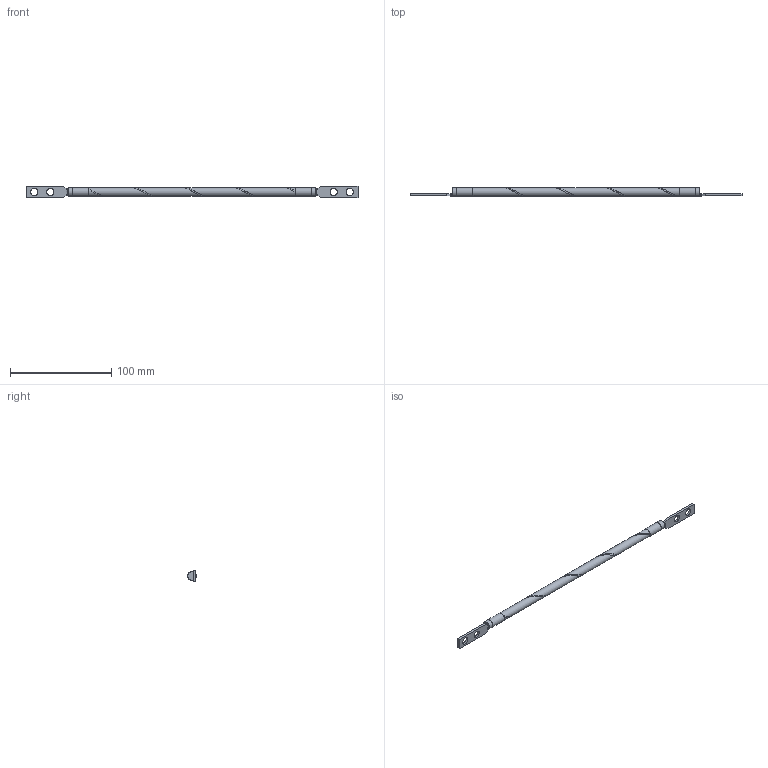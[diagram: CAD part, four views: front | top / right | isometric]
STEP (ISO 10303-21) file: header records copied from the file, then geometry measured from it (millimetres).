
FILE_DESCRIPTION(/* description */ (''),/* implementation_level */ '2;1');
FILE_NAME(/* name */ 'E:\Dutton\Manufacturing\drawings\Dutton Files\Ground Kits\BWK6A11.stp',/* time_stamp */ '2023-09-07T14:15:32-04:00',/* author */ ('tfoster'),/* organization */ (''),/* preprocessor_version */ 'ST-DEVELOPER v19',/* originating_system */ 'Autodesk Inventor 2023',/* authorisation */ '');
FILE_SCHEMA (('AUTOMOTIVE_DESIGN { 1 0 10303 214 3 1 1 }'));
Length unit declared in the file: millimetre
Products named in the file (1): BWK6A11
Bounding box: 327.46 x 8.64 x 11.18 mm (x, y, z)
Volume: 14903.9 mm3; surface area: 9187.5 mm2
Topology: 1 solids, 1 shells, 41 faces, 107 edges, 74 vertices
Faces by surface type: plane 20, cylinder 11, bspline 10
Full cylindrical faces by diameter (mm): 7.137 x4, 8.255 x1, 8.382 x2, 8.636 x2
Entity records: 2347 total; most frequent: CARTESIAN_POINT 1202, ORIENTED_EDGE 214, DIRECTION 189, EDGE_CURVE 107, VERTEX_POINT 74, LINE 65, VECTOR 65, AXIS2_PLACEMENT_3D 62
